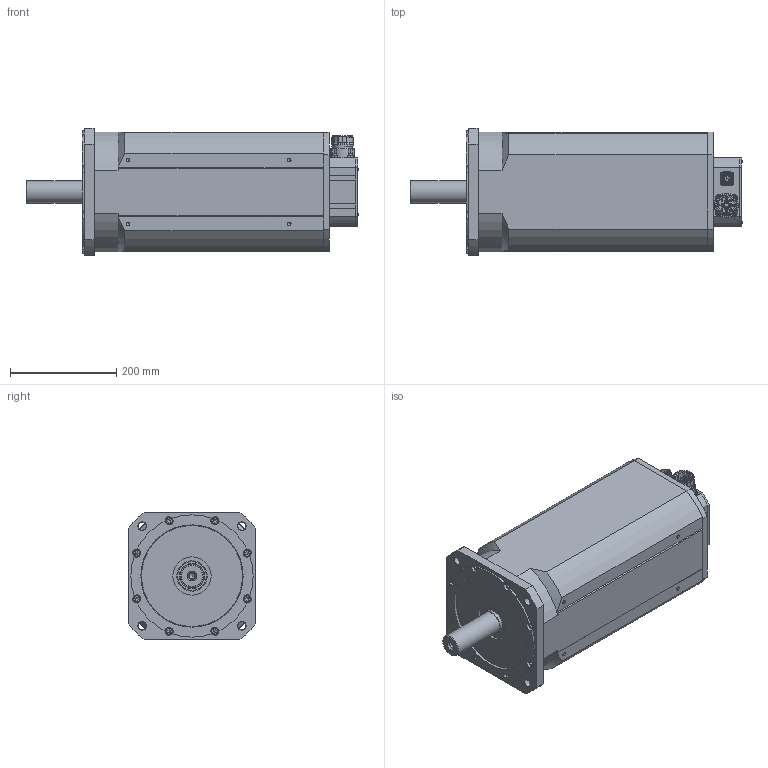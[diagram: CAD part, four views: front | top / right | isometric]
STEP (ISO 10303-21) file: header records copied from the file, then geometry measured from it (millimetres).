
FILE_DESCRIPTION(/* description */ (''),/* implementation_level */ '2;1');
FILE_NAME(/* name */ 'C:\PDF_output\T8000 00 Z_1150_8P_12P.stp',/* time_stamp */ '2024-04-19T11:43:46+02:00',/* author */ ('oslejsek'),/* organization */ (''),/* preprocessor_version */ 'ST-DEVELOPER v18.1',/* originating_system */ 'Autodesk Inventor 2021',/* authorisation */ '');
FILE_SCHEMA (('AUTOMOTIVE_DESIGN { 1 0 10303 214 3 1 1 }'));
Products named in the file (5): T8000 00 Z_1150_8P_12P; T8000 00 Z_1150_rear; 127344; 115772; T8000 00 Z_front_42_110
Assembly tree (4 placements, depth 2):
  T8000 00 Z_1150_8P_12P
    T8000 00 Z_1150_rear
    127344
    115772
    T8000 00 Z_front_42_110
Bounding box: 624.29 x 240 x 240 mm (x, y, z)
Volume: 22222722.4 mm3; surface area: 744085.8 mm2
Topology: 5 solids, 64 shells, 2609 faces, 6677 edges, 4319 vertices
Faces by surface type: plane 923, cylinder 794, cone 305, bspline 297, torus 251, sphere 39
Full cylindrical faces by diameter (mm): 1 x12, 1.18 x12, 2 x4, 2.013 x4, 2.208 x4, 2.4 x4, 2.459 x6, 2.5 x4, 2.7 x4, 3 x3, 3.2 x3, 3.242 x14, 3.545 x4, 3.6 x5, 3.95 x4, 4 x15, 4.3 x8, 4.917 x9, 5 x4, 5.7 x3, 6 x9, 6.4 x1, 6.5 x8, 6.647 x16, 7 x4, 7.5 x4, 8 x12, 8.4 x8, 8.5 x4, 9 x3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
Entity records: 95417 total; most frequent: CARTESIAN_POINT 29971, ORIENTED_EDGE 13174, DIRECTION 13116, EDGE_CURVE 6587, AXIS2_PLACEMENT_3D 5304, VERTEX_POINT 4337, EDGE_LOOP 2978, CIRCLE 2758
